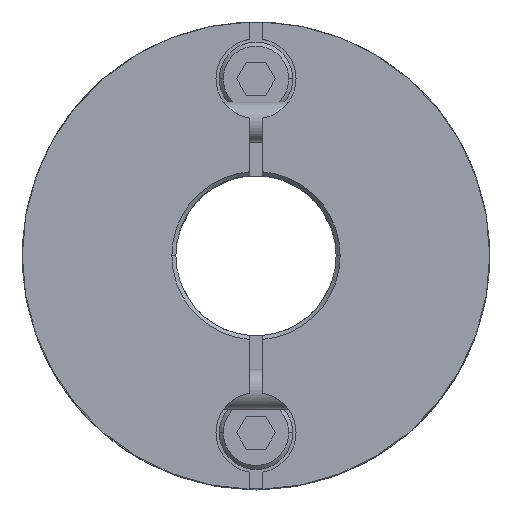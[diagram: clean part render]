
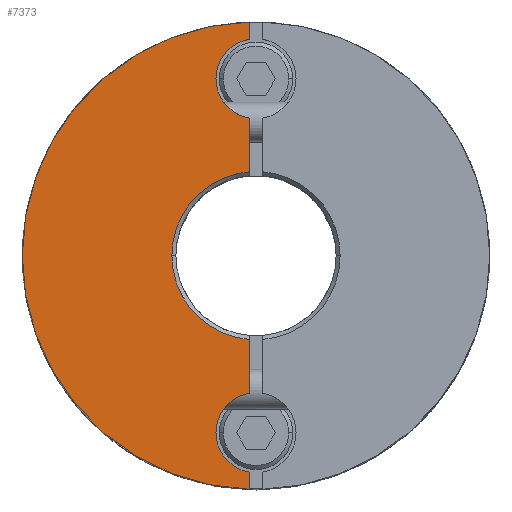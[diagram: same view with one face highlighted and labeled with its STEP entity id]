
A CAD part, top view. The second image highlights one B-rep face of the part: STEP entity #7373.
In plain terms, the highlighted planar face has unit normal (0, 0, 1).
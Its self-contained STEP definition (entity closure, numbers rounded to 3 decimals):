
#751=CARTESIAN_POINT('',(-6.3,0.,13.5));
#752=VERTEX_POINT('',#751);
#759=CARTESIAN_POINT('',(-0.5,-6.28,13.5));
#760=VERTEX_POINT('',#759);
#761=CARTESIAN_POINT('',(0.0,0.,13.5));
#762=DIRECTION('',(0.0,0.0,1.0));
#763=DIRECTION('',(1.0,0.0,0.0));
#764=AXIS2_PLACEMENT_3D('',#761,#762,#763);
#765=CIRCLE('',#764,6.3);
#766=EDGE_CURVE('',#752,#760,#765,.T.);
#831=CARTESIAN_POINT('',(-17.5,0.,13.5));
#832=VERTEX_POINT('',#831);
#916=CARTESIAN_POINT('',(-0.5,-17.493,13.5));
#917=VERTEX_POINT('',#916);
#924=CARTESIAN_POINT('',(0.0,0.,13.5));
#925=DIRECTION('',(0.0,0.0,-1.0));
#926=DIRECTION('',(-1.0,0.0,0.0));
#927=AXIS2_PLACEMENT_3D('',#924,#925,#926);
#928=CIRCLE('',#927,17.5);
#929=EDGE_CURVE('',#917,#832,#928,.T.);
#1353=CARTESIAN_POINT('',(-3.,-13.25,13.5));
#1354=VERTEX_POINT('',#1353);
#1363=CARTESIAN_POINT('',(-0.5,-16.208,13.5));
#1364=VERTEX_POINT('',#1363);
#1365=CARTESIAN_POINT('',(0.,-13.25,13.5));
#1366=DIRECTION('',(0.0,0.0,-1.0));
#1367=DIRECTION('',(-1.0,0.0,0.0));
#1368=AXIS2_PLACEMENT_3D('',#1365,#1366,#1367);
#1369=CIRCLE('',#1368,3.0);
#1370=EDGE_CURVE('',#1364,#1354,#1369,.T.);
#1585=CARTESIAN_POINT('',(-3.,13.25,13.5));
#1586=VERTEX_POINT('',#1585);
#1595=CARTESIAN_POINT('',(-0.5,10.292,13.5));
#1596=VERTEX_POINT('',#1595);
#1597=CARTESIAN_POINT('',(0.,13.25,13.5));
#1598=DIRECTION('',(0.0,0.0,-1.0));
#1599=DIRECTION('',(-1.0,0.0,0.0));
#1600=AXIS2_PLACEMENT_3D('',#1597,#1598,#1599);
#1601=CIRCLE('',#1600,3.0);
#1602=EDGE_CURVE('',#1596,#1586,#1601,.T.);
#6080=CARTESIAN_POINT('',(-0.5,16.208,13.5));
#6081=VERTEX_POINT('',#6080);
#6088=CARTESIAN_POINT('',(0.,13.25,13.5));
#6089=DIRECTION('',(0.0,0.0,-1.0));
#6090=DIRECTION('',(-1.0,0.0,0.0));
#6091=AXIS2_PLACEMENT_3D('',#6088,#6089,#6090);
#6092=CIRCLE('',#6091,3.0);
#6093=EDGE_CURVE('',#1586,#6081,#6092,.T.);
#6495=CARTESIAN_POINT('',(-0.5,-10.292,13.5));
#6496=VERTEX_POINT('',#6495);
#6503=CARTESIAN_POINT('',(0.,-13.25,13.5));
#6504=DIRECTION('',(0.0,0.0,-1.0));
#6505=DIRECTION('',(-1.0,0.0,0.0));
#6506=AXIS2_PLACEMENT_3D('',#6503,#6504,#6505);
#6507=CIRCLE('',#6506,3.0);
#6508=EDGE_CURVE('',#1354,#6496,#6507,.T.);
#6657=CARTESIAN_POINT('',(-0.5,6.28,13.5));
#6658=VERTEX_POINT('',#6657);
#6659=CARTESIAN_POINT('',(-0.5,6.28,13.5));
#6660=DIRECTION('',(0.0,1.0,0.0));
#6661=VECTOR('',#6660,4.012);
#6662=LINE('',#6659,#6661);
#6663=EDGE_CURVE('',#6658,#1596,#6662,.T.);
#6714=CARTESIAN_POINT('',(-0.5,-10.292,13.5));
#6715=DIRECTION('',(0.0,1.0,0.0));
#6716=VECTOR('',#6715,4.012);
#6717=LINE('',#6714,#6716);
#6718=EDGE_CURVE('',#6496,#760,#6717,.T.);
#7319=CARTESIAN_POINT('',(-0.5,-17.493,13.5));
#7320=DIRECTION('',(0.0,1.0,0.0));
#7321=VECTOR('',#7320,1.285);
#7322=LINE('',#7319,#7321);
#7323=EDGE_CURVE('',#917,#1364,#7322,.T.);
#7335=CARTESIAN_POINT('',(-1.591,0.,13.5));
#7336=DIRECTION('',(0.0,0.0,1.0));
#7337=DIRECTION('',(-1.0,0.0,0.0));
#7338=AXIS2_PLACEMENT_3D('',#7335,#7336,#7337);
#7339=PLANE('',#7338);
#7340=ORIENTED_EDGE('',*,*,#1370,.T.);
#7341=ORIENTED_EDGE('',*,*,#6508,.T.);
#7342=ORIENTED_EDGE('',*,*,#6718,.T.);
#7343=ORIENTED_EDGE('',*,*,#766,.F.);
#7344=CARTESIAN_POINT('',(0.0,0.,13.5));
#7345=DIRECTION('',(0.0,0.0,1.0));
#7346=DIRECTION('',(1.0,0.0,0.0));
#7347=AXIS2_PLACEMENT_3D('',#7344,#7345,#7346);
#7348=CIRCLE('',#7347,6.3);
#7349=EDGE_CURVE('',#6658,#752,#7348,.T.);
#7350=ORIENTED_EDGE('',*,*,#7349,.F.);
#7351=ORIENTED_EDGE('',*,*,#6663,.T.);
#7352=ORIENTED_EDGE('',*,*,#1602,.T.);
#7353=ORIENTED_EDGE('',*,*,#6093,.T.);
#7354=CARTESIAN_POINT('',(-0.5,17.493,13.5));
#7355=VERTEX_POINT('',#7354);
#7356=CARTESIAN_POINT('',(-0.5,16.208,13.5));
#7357=DIRECTION('',(0.0,1.0,0.0));
#7358=VECTOR('',#7357,1.285);
#7359=LINE('',#7356,#7358);
#7360=EDGE_CURVE('',#6081,#7355,#7359,.T.);
#7361=ORIENTED_EDGE('',*,*,#7360,.T.);
#7362=CARTESIAN_POINT('',(0.0,0.,13.5));
#7363=DIRECTION('',(0.0,0.0,-1.0));
#7364=DIRECTION('',(-1.0,0.0,0.0));
#7365=AXIS2_PLACEMENT_3D('',#7362,#7363,#7364);
#7366=CIRCLE('',#7365,17.5);
#7367=EDGE_CURVE('',#832,#7355,#7366,.T.);
#7368=ORIENTED_EDGE('',*,*,#7367,.F.);
#7369=ORIENTED_EDGE('',*,*,#929,.F.);
#7370=ORIENTED_EDGE('',*,*,#7323,.T.);
#7371=EDGE_LOOP('',(#7340,#7341,#7342,#7343,#7350,#7351,#7352,#7353,#7361,#7368,#7369,#7370));
#7372=FACE_OUTER_BOUND('',#7371,.T.);
#7373=ADVANCED_FACE('',(#7372),#7339,.T.);
